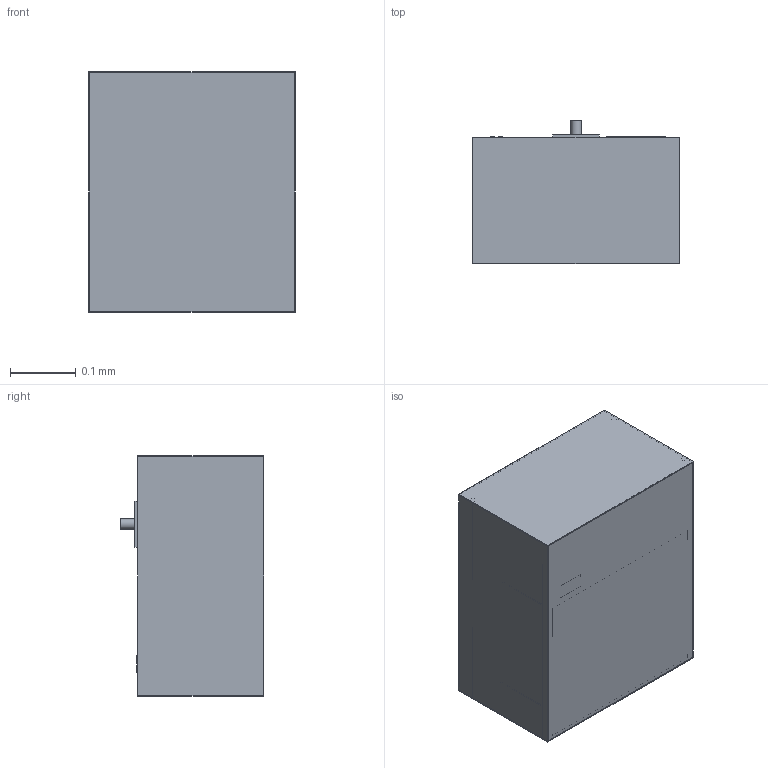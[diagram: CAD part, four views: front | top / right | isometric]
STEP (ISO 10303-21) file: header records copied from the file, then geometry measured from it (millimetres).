
FILE_DESCRIPTION(('Open CASCADE Model'),'2;1');
FILE_NAME('Open CASCADE Shape Model','2026-10-04T13:16:40',('Author'),( 'Open CASCADE'),'Open CASCADE STEP processor 7.9','Open CASCADE 7.9' ,'Unknown');
FILE_SCHEMA(('AUTOMOTIVE_DESIGN { 1 0 10303 214 1 1 1 1 }'));
Length unit declared in the file: millimetre
Products named in the file (139): MOD-t-cell-activation; fluid__medium_125_mL; fluid__medium_port; fluid__activator_mixes_1_125_mL; fluid__activator_mixes_1_port; fluid__activator_mixes_2_125_mL; fluid__activator_mixes_2_port; fluid__RNAlater_125_mL; fluid__RNAlater_port; fluid__paraformaldehyde_125_mL; fluid__paraformaldehyde_port; fluid__live_dead_stain_125_mL; fluid__live_dead_stain_port; fluid__supernatant_reservoir_empty_at_launch_150_mL_capacity_under_the_
reagent_b; fluid__supernatant_reservoir_port; pump__fluid_manifold; pump__micro_pump_1; pump__micro_pump_2; pump__valve_1; pump__valve_2; pump__valve_3; pump__valve_4; pump__manifold_inlet; pump__manifold_outlet; imaging__microscope_base_optics_filter_cubes_camera; imaging__objective; imaging__stage_post_1; imaging__stage_post_2; imaging__stage_post_3; imaging__stage_post_4; imaging__XY_stage_frame_travel_96_5_x_57_9_mm_every_well_over_the_
objective; imaging__stage_carriage; imaging__X_stepper; imaging__Y_stepper; imaging__illumination_column; imaging__illumination_arm; imaging__arm_to_head; imaging__LED_head_transmitted_light; sample__cassette_24_wells_SBS_footprint_19_3_mm_pitch; sample__culture_in_the_wells ...
Assembly tree (138 placements, depth 2):
  MOD-t-cell-activation
    fluid__medium_125_mL
    fluid__medium_port
    fluid__activator_mixes_1_125_mL
    fluid__activator_mixes_1_port
    fluid__activator_mixes_2_125_mL
    fluid__activator_mixes_2_port
    fluid__RNAlater_125_mL
    fluid__RNAlater_port
    fluid__paraformaldehyde_125_mL
    fluid__paraformaldehyde_port
    fluid__live_dead_stain_125_mL
    fluid__live_dead_stain_port
    fluid__supernatant_reservoir_empty_at_launch_150_mL_capacity_under_the_
reagent_b
    fluid__supernatant_reservoir_port
    pump__fluid_manifold
    pump__micro_pump_1
    pump__micro_pump_2
    pump__valve_1
    pump__valve_2
    pump__valve_3
    pump__valve_4
    pump__manifold_inlet
    pump__manifold_outlet
    imaging__microscope_base_optics_filter_cubes_camera
    imaging__objective
    imaging__stage_post_1
    imaging__stage_post_2
    imaging__stage_post_3
    imaging__stage_post_4
    imaging__XY_stage_frame_travel_96_5_x_57_9_mm_every_well_over_the_
objective
    imaging__stage_carriage
    imaging__X_stepper
    imaging__Y_stepper
    imaging__illumination_column
    imaging__illumination_arm
    imaging__arm_to_head
    imaging__LED_head_transmitted_light
    sample__cassette_24_wells_SBS_footprint_19_3_mm_pitch
    sample__culture_in_the_wells
    sample__cassette_lid_sealed_and_gas_permeable
    sample__cassette_fluid_port_1
    sample__cassette_fluid_port_2
    sample__m80_C_passive_cryo_cassette_vacuum_insulated_body
    sample__cryo_cassette_cap
    electronics__controller_enclosure_boards_data_storage
    electronics__connector_1
    electronics__connector_2
    housing__bottom_panel
    housing__top_panel
    housing__side_panel_L
    housing__side_panel_R
    housing__back_panel_bay_interface
    housing__front_panel
    housing__corner_post_1
    housing__corner_post_2
    housing__corner_post_3
    housing__corner_post_4
    housing__shelf_1
    housing__shelf_2
Bounding box: 0.31 x 0.22 x 0.37 mm (x, y, z)
Volume: 0 mm3; surface area: 2 mm2
Topology: 162 solids, 162 shells, 675 faces, 981 edges, 654 vertices
Faces by surface type: plane 496, cylinder 179
Full cylindrical faces by diameter (mm): 0.003 x55, 0.005 x27, 0.006 x4, 0.009 x4, 0.01 x4, 0.012 x2, 0.015 x24, 0.016 x25, 0.02 x2, 0.022 x1, 0.028 x1, 0.078 x1, 0.08 x1
Entity records: 30942 total; most frequent: DIRECTION 4901, CARTESIAN_POINT 4579, LINE 2227, VECTOR 2227, ORIENTED_EDGE 1962, PCURVE 1962, DEFINITIONAL_REPRESENTATION 1962, AXIS2_PLACEMENT_3D 1172
